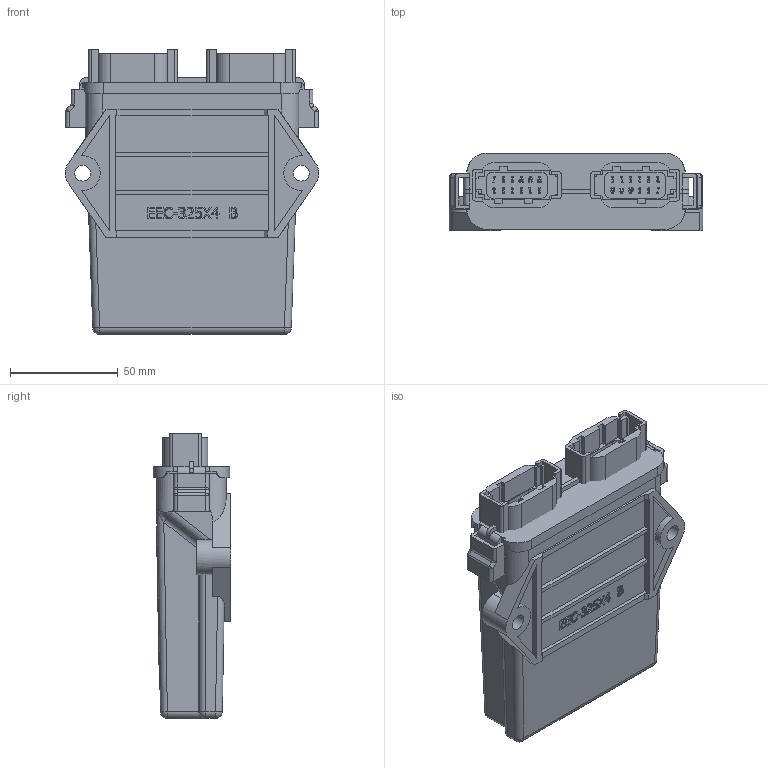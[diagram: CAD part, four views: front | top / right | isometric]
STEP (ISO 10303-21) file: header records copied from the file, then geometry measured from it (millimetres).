
FILE_DESCRIPTION((''),'2;1');
FILE_NAME('S:\Projects\ATC-4IN-2OUT (AX021800)\MECHANICAL\REV A\FG-AX021800.stp','2012-11-19T13:37:41',('tfisher'),(''),'Autodesk Inventor 2011','Autodesk Inventor 2011','');
FILE_SCHEMA(('AUTOMOTIVE_DESIGN { 1 0 10303 214 1 1 1 1 }'));
Length unit declared in the file: inch
Products named in the file (12): FG-AX021800; PCB-7019-01-R3; DEUT DTM13-12A-12PB; deutsch box faceplate; 12PB; 12PA; DTM1312PAPB pin guide; DTM1312PA12PB gasket; MS-4-40X375SSPPU; Hex Machine Screw Nut - Inch 4 - 40; DEUT EEC-325X4B; LBM-AX0218001R01
Assembly tree (11 placements, depth 3):
  FG-AX021800
    PCB-7019-01-R3
    DEUT DTM13-12A-12PB
      deutsch box faceplate
      12PB
      12PA
      DTM1312PAPB pin guide
      DTM1312PA12PB gasket
    MS-4-40X375SSPPU
    Hex Machine Screw Nut - Inch 4 - 40
    DEUT EEC-325X4B
    LBM-AX0218001R01
Bounding box: 117.86 x 36.09 x 132.51 mm (x, y, z)
Volume: 146538.1 mm3; surface area: 127859 mm2
Topology: 11 solids, 11 shells, 2017 faces, 5455 edges, 3575 vertices
Faces by surface type: plane 949, cylinder 651, bspline 340, cone 35, torus 31, sphere 11
Full cylindrical faces by diameter (mm): 0.483 x1, 0.508 x295, 0.711 x17, 0.762 x96, 0.864 x1, 1.016 x21, 1.27 x24, 2.156 x1, 2.845 x1, 3.962 x1, 5.563 x1, 7.366 x2
Entity records: 66068 total; most frequent: CARTESIAN_POINT 15550, ORIENTED_EDGE 9908, DIRECTION 9035, EDGE_CURVE 4954, VERTEX_POINT 3573, EDGE_LOOP 3423, AXIS2_PLACEMENT_3D 3117, VECTOR 2801
